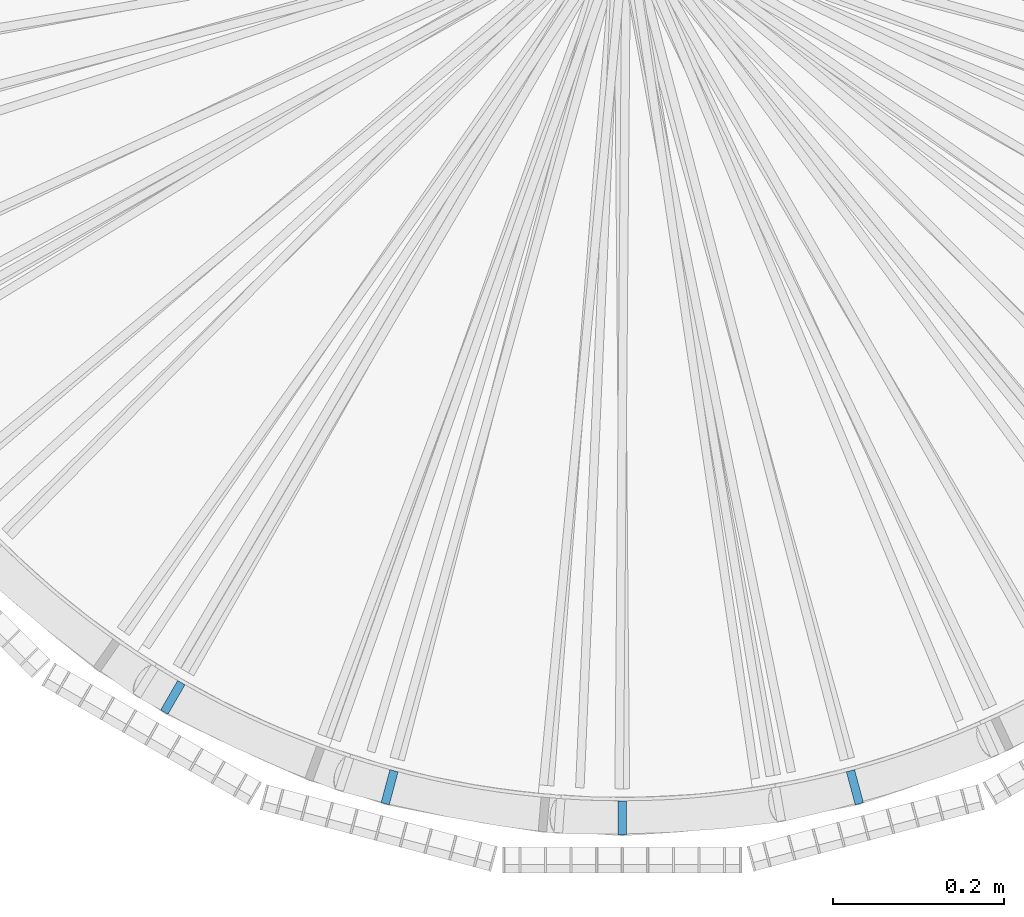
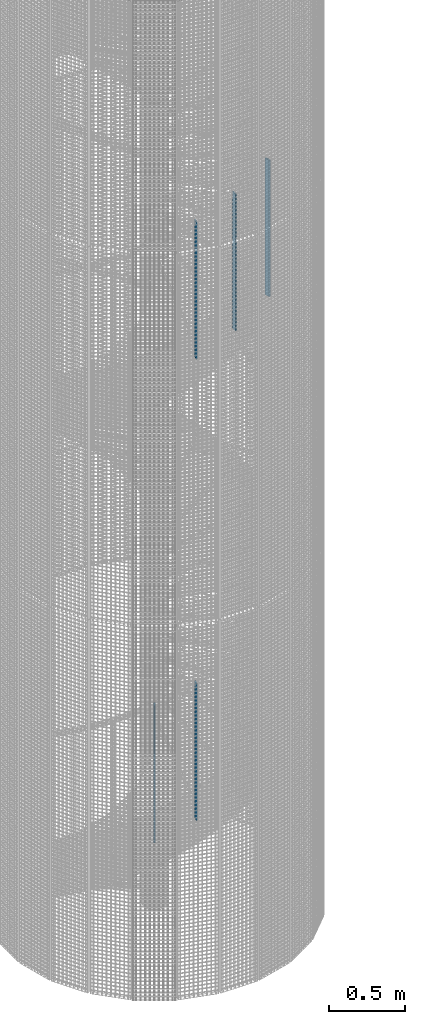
# One storey, part 6 of 1148: 5 columns, 5 elements without a shape of their own.
"""IFC2X3 building model written with IfcOpenShell, lengths in millimetres."""

from ifc_helpers import new_model, si_unit, frame, origin_with_axes, origin_2d_with_axis, place, context, subcontext, project, spatial, rectangle, extrude, material, type_object, element, aggregate, save


model = new_model("IFC2X3")

# Units and contexts
model_context = context("Model", 3, precision=1e-05, world=origin_with_axes())
body_context = subcontext(model_context, "Body", "Model", "MODEL_VIEW")
ifc_project = project(units=[si_unit("LENGTHUNIT", "METRE", prefix="MILLI"), si_unit("AREAUNIT", "SQUARE_METRE"), si_unit("VOLUMEUNIT", "CUBIC_METRE"), si_unit("MASSUNIT", "GRAM", prefix="KILO"), si_unit("TIMEUNIT", "SECOND"), si_unit("PLANEANGLEUNIT", "RADIAN"), si_unit("SOLIDANGLEUNIT", "STERADIAN"), si_unit("THERMODYNAMICTEMPERATUREUNIT", "DEGREE_CELSIUS"), si_unit("LUMINOUSINTENSITYUNIT", "LUMEN")], contexts=[model_context])

# Site, building, storey
site_placement = place(None, origin_with_axes())
site = spatial("IfcSite", under=ifc_project, at=site_placement, Name="Undefined", CompositionType="ELEMENT")
building_placement = place(site_placement, origin_with_axes())
building = spatial("IfcBuilding", under=site, at=building_placement, Name="Undefined", CompositionType="ELEMENT")
storey_placement = place(building_placement, origin_with_axes())
storey = spatial("IfcBuildingStorey", under=building, at=storey_placement, Name="Undefined", CompositionType="ELEMENT", Elevation=0.0)

# Assembly, column
assembly_1_placement = place(storey_placement, origin_with_axes())
assembly_1 = element("IfcElementAssembly", 1, at=assembly_1_placement, inside=storey, Name="MONTANT", AssemblyPlace="NOTDEFINED", PredefinedType="NOTDEFINED")
ifc_material = material(Name="STEEL/S235JR")
column_type = type_object("IfcColumnType", Name="PL10*40", PredefinedType="NOTDEFINED")
column_1_placement = place(assembly_1_placement, frame((-526.999999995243, -912.790775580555, 1236.16), z_axis=(0.0, 0.0, 1.0), x_axis=(0.49999999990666, 0.866025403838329, 0.0)))
column_1 = element("IfcColumn", 2, at=column_1_placement, type_object=column_type, material=ifc_material, Name="MONTANT", context=body_context, shape_type="SweptSolid", body=[
    extrude(rectangle(XDim=10.0, YDim=40.0, at=origin_2d_with_axis()), frame((0.0, 0.0, 1100.0), z_axis=(0.0, 0.0, -1.0), x_axis=(0.0, 1.0, 0.0)), (0.0, 0.0, 1.0), 1100.0),
])
aggregate(assembly_1, [column_1])

assembly_2_placement = place(storey_placement, origin_with_axes())
assembly_2 = element("IfcElementAssembly", 3, at=assembly_2_placement, inside=storey, Name="MONTANT", AssemblyPlace="NOTDEFINED", PredefinedType="NOTDEFINED")
column_2_placement = place(assembly_2_placement, frame((-272.795273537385, -1018.08582090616, 5099.16), z_axis=(0.0, 0.0, 1.0), x_axis=(0.258819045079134, 0.965925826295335, 0.0)))
column_2 = element("IfcColumn", 4, at=column_2_placement, type_object=column_type, material=ifc_material, Name="MONTANT", context=body_context, shape_type="SweptSolid", body=[
    extrude(rectangle(XDim=10.0, YDim=40.0, at=origin_2d_with_axis()), frame((0.0, 0.0, 1100.0), z_axis=(0.0, 0.0, -1.0), x_axis=(0.0, 1.0, 0.0)), (0.0, 0.0, 1.0), 1100.0),
])
aggregate(assembly_2, [column_2])

assembly_3_placement = place(storey_placement, origin_with_axes())
assembly_3 = element("IfcElementAssembly", 5, at=assembly_3_placement, inside=storey, Name="MONTANT", AssemblyPlace="NOTDEFINED", PredefinedType="NOTDEFINED")
column_3_placement = place(assembly_3_placement, frame((-272.795273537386, -1018.08582090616, 1390.68), z_axis=(0.0, 0.0, 1.0), x_axis=(0.258819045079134, 0.965925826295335, 0.0)))
column_3 = element("IfcColumn", 6, at=column_3_placement, type_object=column_type, material=ifc_material, Name="MONTANT", context=body_context, shape_type="SweptSolid", body=[
    extrude(rectangle(XDim=10.0, YDim=40.0, at=origin_2d_with_axis()), frame((0.0, 0.0, 1100.0), z_axis=(0.0, 0.0, -1.0), x_axis=(0.0, 1.0, 0.0)), (0.0, 0.0, 1.0), 1100.0),
])
aggregate(assembly_3, [column_3])

assembly_4_placement = place(storey_placement, origin_with_axes())
assembly_4 = element("IfcElementAssembly", 7, at=assembly_4_placement, inside=storey, Name="MONTANT", AssemblyPlace="NOTDEFINED", PredefinedType="NOTDEFINED")
column_4_placement = place(assembly_4_placement, frame((-2.72848410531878e-12, -1054.00000000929, 5253.68), z_axis=(0.0, 0.0, 1.0), x_axis=(0.0, 1.0, 0.0)))
column_4 = element("IfcColumn", 8, at=column_4_placement, type_object=column_type, material=ifc_material, Name="MONTANT", context=body_context, shape_type="SweptSolid", body=[
    extrude(rectangle(XDim=10.0, YDim=40.0, at=origin_2d_with_axis()), frame((0.0, 0.0, 1100.0), z_axis=(0.0, 0.0, -1.0), x_axis=(0.0, 1.0, 0.0)), (0.0, 0.0, 1.0), 1100.0),
])
aggregate(assembly_4, [column_4])

assembly_5_placement = place(storey_placement, origin_with_axes())
assembly_5 = element("IfcElementAssembly", 9, at=assembly_5_placement, inside=storey, Name="MONTANT", AssemblyPlace="NOTDEFINED", PredefinedType="NOTDEFINED")
column_5_placement = place(assembly_5_placement, frame((272.795273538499, -1018.08582091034, 5408.2), z_axis=(0.0, 0.0, 1.0), x_axis=(-0.258819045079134, 0.965925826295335, 0.0)))
column_5 = element("IfcColumn", 10, at=column_5_placement, type_object=column_type, material=ifc_material, Name="MONTANT", context=body_context, shape_type="SweptSolid", body=[
    extrude(rectangle(XDim=10.0, YDim=40.0, at=origin_2d_with_axis()), frame((0.0, 0.0, 1100.0), z_axis=(0.0, 0.0, -1.0), x_axis=(0.0, 1.0, 0.0)), (0.0, 0.0, 1.0), 1100.0),
])
aggregate(assembly_5, [column_5])

save(model, "model.ifc")
